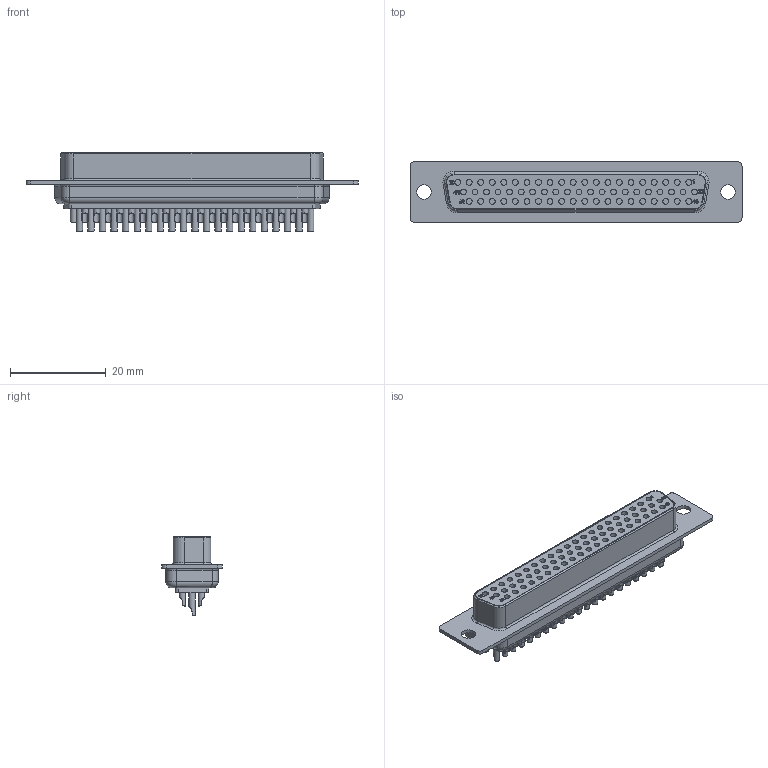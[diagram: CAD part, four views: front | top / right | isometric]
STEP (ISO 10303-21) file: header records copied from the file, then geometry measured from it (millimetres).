
FILE_DESCRIPTION (( 'STEP AP203' ), '1' );
FILE_NAME ('780-M62-203L001.STEP', '2026-02-06T20:56:34', ( '' ), ( '' ), 'SwSTEP 2.0', 'SolidWorks 2020', '' );
FILE_SCHEMA (( 'CONFIG_CONTROL_DESIGN' ));
Length unit declared in the file: inch
Products named in the file (1): 780-M62-203L001
Bounding box: 69.29 x 12.6 x 16.54 mm (x, y, z)
Volume: 5579.1 mm3; surface area: 7102.1 mm2
Topology: 1 solids, 1 shells, 1182 faces, 2914 edges, 1890 vertices
Faces by surface type: plane 594, cylinder 470, bspline 102, torus 16
Full cylindrical faces by diameter (mm): 1.143 x62, 1.219 x62, 1.321 x62, 3.048 x2
Entity records: 42401 total; most frequent: CARTESIAN_POINT 16693, ORIENTED_EDGE 5452, DIRECTION 4540, EDGE_CURVE 2726, VERTEX_POINT 1890, AXIS2_PLACEMENT_3D 1549, EDGE_LOOP 1530, LINE 1442
